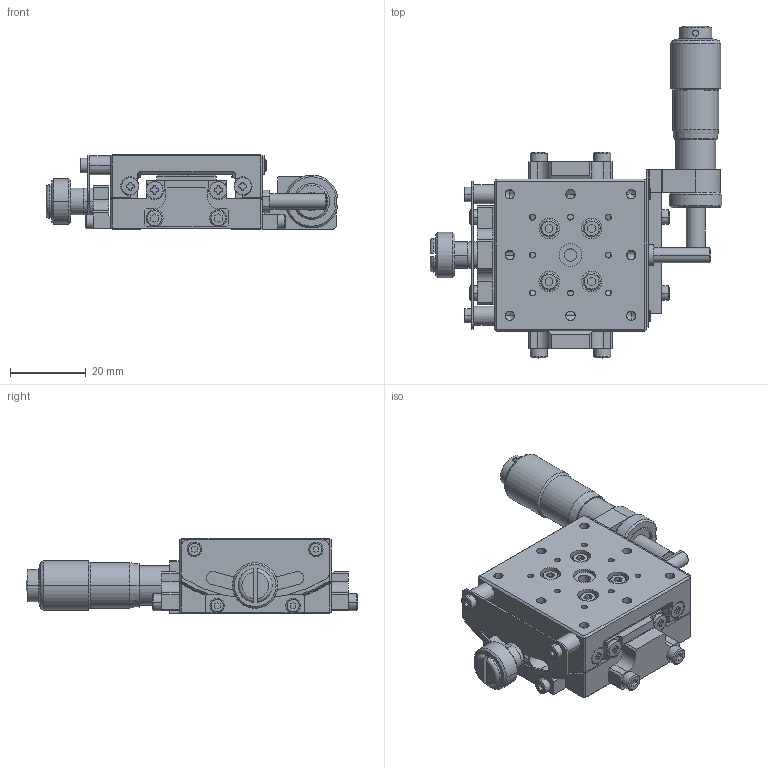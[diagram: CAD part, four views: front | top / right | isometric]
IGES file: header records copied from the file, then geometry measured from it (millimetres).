
Global section: file name: No Iges File Name specified; native system: AutoDesk Inventor R12.0; preprocessor: AutoDesk Inventor Iges Exporter R12.0; author: No Author specified; organization: No Organization specified; date: 20081126.154547; units: millimetre
Bounding box: 76.93 x 87.47 x 20 mm (x, y, z)
Volume: 32984 mm3; surface area: 24811.2 mm2
Topology: 2 solids, 32 shells, 1215 faces, 2943 edges, 1856 vertices
Faces by surface type: plane 547, bspline 262, cylinder 191, cone 104, revolution 96, sphere 9, torus 6
